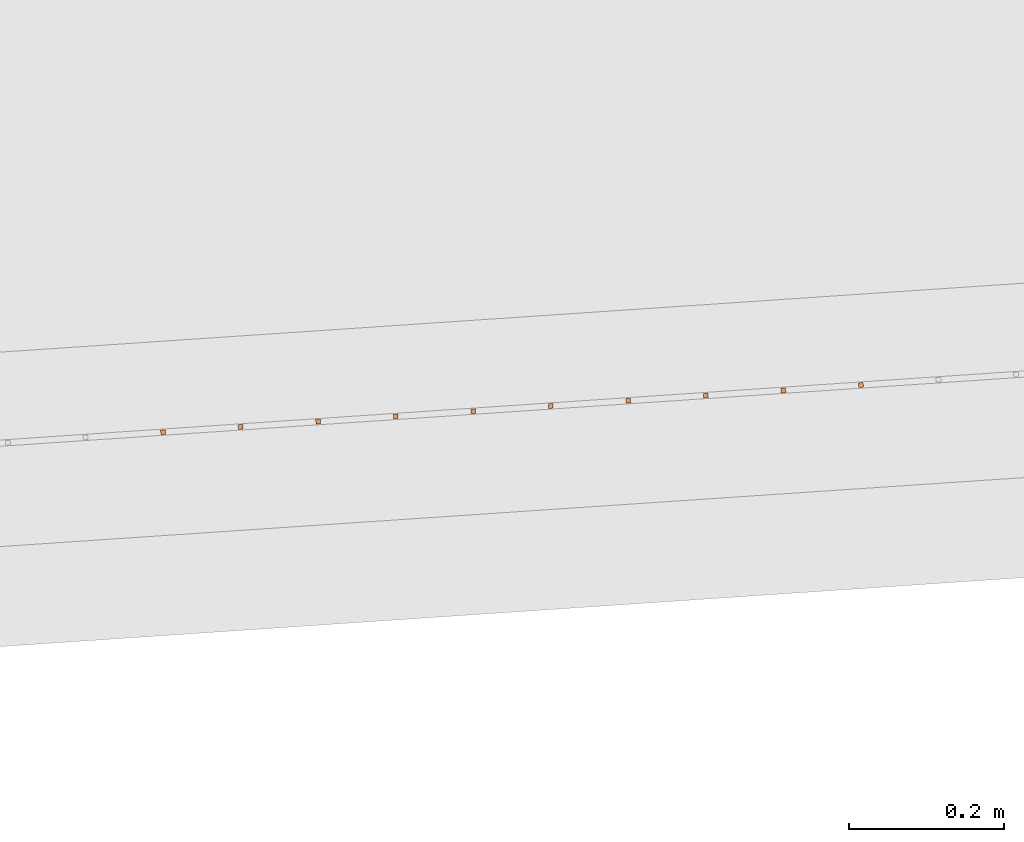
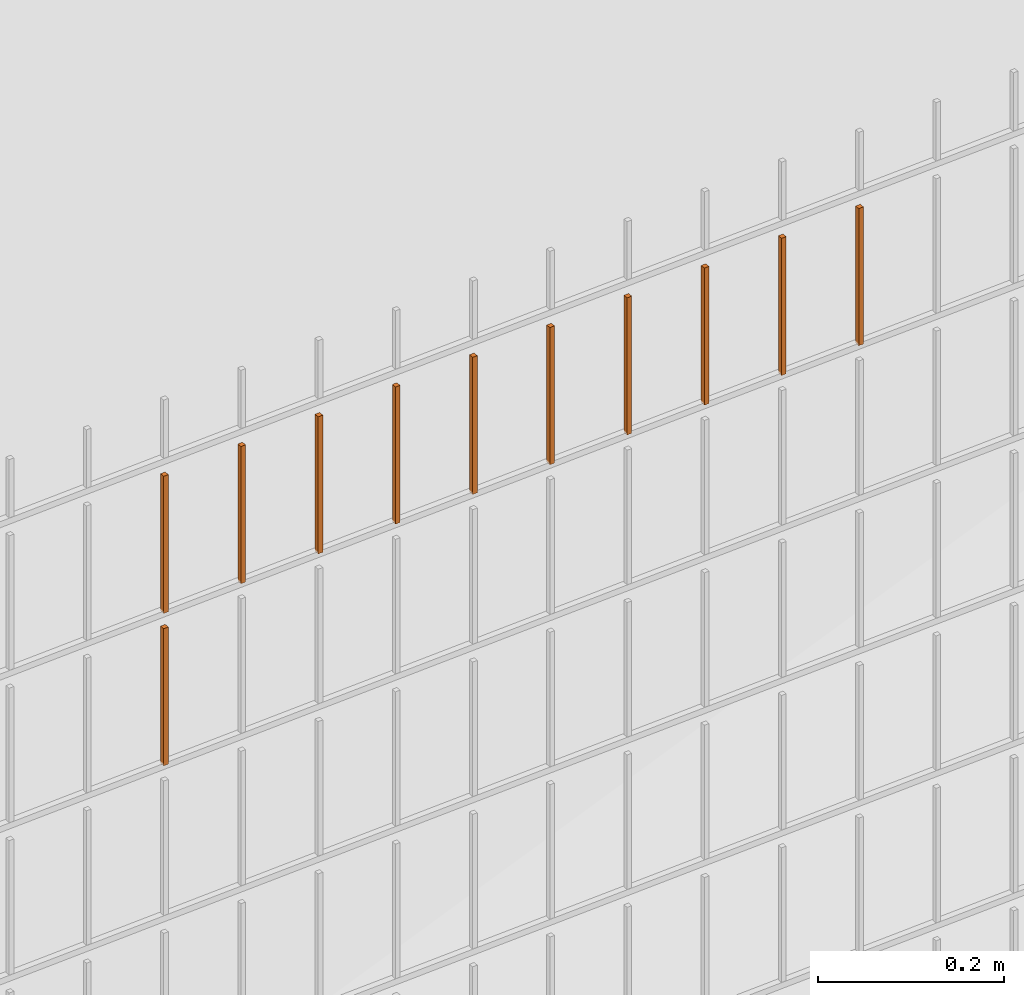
# One storey, part 79 of 1809: 11 proxies, 1 element without a shape of its own.
"""IFC2X3 building model written with IfcOpenShell, lengths in millimetres."""

from ifc_helpers import new_model, entity, si_unit, converted_unit, derived_unit, money_unit, direction, frame, origin_with_axes, place, context, subcontext, project, spatial, faceted_brep, source, transform, mapped, material, type_object, element, aggregate, save


model = new_model("IFC2X3")

# Units and contexts
model_context = context("Model", 3, precision=0.01, world=origin_with_axes(), true_north=direction((0.0, 1.0)))
body_context = subcontext(model_context, "Body", "Model", "MODEL_VIEW")
ifc_project = project(units=[si_unit("LENGTHUNIT", "METRE", prefix="MILLI"), si_unit("AREAUNIT", "SQUARE_METRE"), si_unit("VOLUMEUNIT", "CUBIC_METRE"), converted_unit("PLANEANGLEUNIT", "DEGREE", entity("IfcPlaneAngleMeasure", 0.0174532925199), si_unit("PLANEANGLEUNIT", "RADIAN"), dimensions=[0, 0, 0, 0, 0, 0, 0]), si_unit("SOLIDANGLEUNIT", "STERADIAN"), money_unit("EUR"), converted_unit("TIMEUNIT", "Year", entity("IfcTimeMeasure", 31556926.0), si_unit("TIMEUNIT", "SECOND"), dimensions=[0, 0, 1, 0, 0, 0, 0]), si_unit("MASSUNIT", "GRAM", prefix="KILO"), si_unit("THERMODYNAMICTEMPERATUREUNIT", "DEGREE_CELSIUS"), si_unit("LUMINOUSINTENSITYUNIT", "LUMEN"), si_unit("ENERGYUNIT", "JOULE", prefix="MEGA"), derived_unit("THERMALCONDUCTANCEUNIT", [(si_unit("POWERUNIT", "WATT"), 1), (si_unit("LENGTHUNIT", "METRE"), -1), (si_unit("THERMODYNAMICTEMPERATUREUNIT", "KELVIN"), -1)]), derived_unit("SPECIFICHEATCAPACITYUNIT", [(si_unit("ENERGYUNIT", "JOULE"), 1), (si_unit("MASSUNIT", "GRAM", prefix="KILO"), -1), (si_unit("THERMODYNAMICTEMPERATUREUNIT", "KELVIN"), -1)]), derived_unit("MASSDENSITYUNIT", [(si_unit("MASSUNIT", "GRAM", prefix="KILO"), 1), (si_unit("VOLUMEUNIT", "CUBIC_METRE"), -1)])], contexts=[model_context])

# Site, building, storey
site_placement = place(None, origin_with_axes())
site = spatial("IfcSite", under=ifc_project, at=site_placement, Name="Politse- ja Piirivalveameti ning Päästeameti ühishoone", CompositionType="ELEMENT")
building_placement = place(site_placement, origin_with_axes())
building = spatial("IfcBuilding", under=site, at=building_placement, Name="Politse- ja Piirivalveameti ning Päästeameti ühishoone", CompositionType="ELEMENT")
storey_placement = place(building_placement, origin_with_axes())
storey = spatial("IfcBuildingStorey", under=building, at=storey_placement, Name="Esimene korrus", CompositionType="ELEMENT", Elevation=0.0)

# Proxies
building_element_proxy_type_1 = type_object("IfcBuildingElementProxyType", Name="Railing Type", PredefinedType="NOTDEFINED")
proxy_1_placement = place(storey_placement, frame((89252.001212, -29183.4766571, 203.661247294), z_axis=(0.0, 0.0, 1.0), x_axis=(1.0, 0.0, 0.0)))
proxy_1 = element("IfcBuildingElementProxy", 1, at=proxy_1_placement, inside=storey, type_object=building_element_proxy_type_1, Name="PIIRDEAED")
ifc_material = material(Name="ET-03_Raud")
building_element_proxy_type_2 = type_object("IfcBuildingElementProxyType", Name="IfcBuildingElementProxy", PredefinedType="NOTDEFINED")
shared_shape_1 = source(origin_with_axes(), body_context, "Body", "Brep", [
    faceted_brep([(3.0, 3.0, -0.000752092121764), (-3.0, 3.0, -0.000752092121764), (-3.0, 3.0, 179.99926046), (3.0, 3.0, 179.99926046), (3.0, -3.0, 0.000752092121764), (-3.0, -3.0, 0.000752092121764), (-3.0, -3.0, 180.000764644), (3.0, -3.0, 180.000764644)], [[[0, 1, 2, 3]], [[0, 4, 5, 1]], [[1, 5, 6, 2]], [[3, 2, 6, 7]], [[4, 0, 3, 7]], [[5, 4, 7, 6]]]),
])
proxy_2_placement = place(proxy_1_placement, frame((-103291.323174, -24274.7138346, 1801.28051671), z_axis=(0.0, 0.0, 1.0), x_axis=(1.0, 0.0, 0.0)))
proxy_2 = element("IfcBuildingElementProxy", 2, at=proxy_2_placement, type_object=building_element_proxy_type_2, material=ifc_material, Name="BALUSTER - 001", context=body_context, shape_type="MappedRepresentation", body=[
    mapped(shared_shape_1, transform((0.0, 0.0, 0.0), x_axis=(-0.0673926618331, 0.997726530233, 0.0), y_axis=(-0.997726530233, -0.0673926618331, 0.0), z_axis=(0.0, 0.0, 1.0))),
])
proxy_3_placement = place(proxy_1_placement, frame((-103391.095827, -24281.4531008, 1801.25544697), z_axis=(0.0, 0.0, 1.0), x_axis=(1.0, 0.0, 0.0)))
proxy_3 = element("IfcBuildingElementProxy", 3, at=proxy_3_placement, type_object=building_element_proxy_type_2, material=ifc_material, Name="BALUSTER - 001", context=body_context, shape_type="MappedRepresentation", body=[
    mapped(shared_shape_1, transform((0.0, 0.0, 0.0), x_axis=(-0.0673926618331, 0.997726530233, 0.0), y_axis=(-0.997726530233, -0.0673926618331, 0.0), z_axis=(0.0, 0.0, 1.0))),
])
proxy_4_placement = place(proxy_1_placement, frame((-103889.959092, -24315.1494317, 1801.13009828), z_axis=(0.0, 0.0, 1.0), x_axis=(1.0, 0.0, 0.0)))
proxy_4 = element("IfcBuildingElementProxy", 4, at=proxy_4_placement, type_object=building_element_proxy_type_2, material=ifc_material, Name="BALUSTER - 001", context=body_context, shape_type="MappedRepresentation", body=[
    mapped(shared_shape_1, transform((0.0, 0.0, 0.0), x_axis=(-0.0673926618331, 0.997726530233, 0.0), y_axis=(-0.997726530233, -0.0673926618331, 0.0), z_axis=(0.0, 0.0, 1.0))),
])
proxy_5_placement = place(proxy_1_placement, frame((-103989.731745, -24321.8886979, 1801.10502854), z_axis=(0.0, 0.0, 1.0), x_axis=(1.0, 0.0, 0.0)))
proxy_5 = element("IfcBuildingElementProxy", 5, at=proxy_5_placement, type_object=building_element_proxy_type_2, material=ifc_material, Name="BALUSTER - 001", context=body_context, shape_type="MappedRepresentation", body=[
    mapped(shared_shape_1, transform((0.0, 0.0, 0.0), x_axis=(-0.0673926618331, 0.997726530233, 0.0), y_axis=(-0.997726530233, -0.0673926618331, 0.0), z_axis=(0.0, 0.0, 1.0))),
])
shared_shape_2 = source(origin_with_axes(), body_context, "Body", "Brep", [
    faceted_brep([(3.0, 3.0, -0.000752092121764), (-3.0, 3.0, -0.000752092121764), (-3.0, 3.0, 179.99926046), (3.0, 3.0, 179.99926046), (3.0, -3.0, 0.000752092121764), (-3.0, -3.0, 0.000752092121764), (-3.0, -3.0, 180.000764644), (3.0, -3.0, 180.000764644)], [[[0, 1, 2, 3]], [[0, 4, 5, 1]], [[1, 5, 6, 2]], [[3, 2, 6, 7]], [[4, 0, 3, 7]], [[5, 4, 7, 6]]]),
])
proxy_6_placement = place(proxy_1_placement, frame((-103790.186439, -24308.4101656, 1801.15516802), z_axis=(0.0, 0.0, 1.0), x_axis=(1.0, 0.0, 0.0)))
proxy_6 = element("IfcBuildingElementProxy", 6, at=proxy_6_placement, type_object=building_element_proxy_type_2, material=ifc_material, Name="BALUSTER - 001", context=body_context, shape_type="MappedRepresentation", body=[
    mapped(shared_shape_2, transform((0.0, 0.0, 0.0), x_axis=(-0.0673926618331, 0.997726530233, 0.0), y_axis=(-0.997726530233, -0.0673926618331, 0.0), z_axis=(0.0, 0.0, 1.0))),
])
shared_shape_3 = source(origin_with_axes(), body_context, "Body", "Brep", [
    faceted_brep([(3.0, 3.0, -0.000752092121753), (-3.0, 3.0, -0.000752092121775), (-3.0, 3.0, 179.99926046), (3.0, 3.0, 179.99926046), (3.0, -3.0, 0.000752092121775), (-3.0, -3.0, 0.000752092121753), (-3.0, -3.0, 180.000764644), (3.0, -3.0, 180.000764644)], [[[0, 1, 2, 3]], [[0, 4, 5, 1]], [[1, 5, 6, 2]], [[3, 2, 6, 7]], [[4, 0, 3, 7]], [[5, 4, 7, 6]]]),
])
proxy_7_placement = place(proxy_1_placement, frame((-103690.413786, -24301.6708994, 1801.18023776), z_axis=(0.0, 0.0, 1.0), x_axis=(1.0, 0.0, 0.0)))
proxy_7 = element("IfcBuildingElementProxy", 7, at=proxy_7_placement, type_object=building_element_proxy_type_2, material=ifc_material, Name="BALUSTER - 001", context=body_context, shape_type="MappedRepresentation", body=[
    mapped(shared_shape_3, transform((0.0, 0.0, 0.0), x_axis=(-0.0673926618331, 0.997726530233, 0.0), y_axis=(-0.997726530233, -0.0673926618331, 0.0), z_axis=(0.0, 0.0, 1.0))),
])
shared_shape_4 = source(origin_with_axes(), body_context, "Body", "Brep", [
    faceted_brep([(3.0, 3.0, -0.000752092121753), (-3.0, 3.0, -0.000752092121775), (-3.0, 3.0, 179.99926046), (3.0, 3.0, 179.99926046), (3.0, -3.0, 0.000752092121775), (-3.0, -3.0, 0.000752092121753), (-3.0, -3.0, 180.000764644), (3.0, -3.0, 180.000764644)], [[[0, 1, 2, 3]], [[0, 4, 5, 1]], [[1, 5, 6, 2]], [[3, 2, 6, 7]], [[4, 0, 3, 7]], [[5, 4, 7, 6]]]),
])
proxy_8_placement = place(proxy_1_placement, frame((-103191.550521, -24267.9745685, 1801.30558644), z_axis=(0.0, 0.0, 1.0), x_axis=(1.0, 0.0, 0.0)))
proxy_8 = element("IfcBuildingElementProxy", 8, at=proxy_8_placement, type_object=building_element_proxy_type_2, material=ifc_material, Name="BALUSTER - 001", context=body_context, shape_type="MappedRepresentation", body=[
    mapped(shared_shape_4, transform((0.0, 0.0, 0.0), x_axis=(-0.0673926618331, 0.997726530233, 0.0), y_axis=(-0.997726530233, -0.0673926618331, 0.0), z_axis=(0.0, 0.0, 1.0))),
])
proxy_9_placement = place(proxy_1_placement, frame((-103490.86848, -24288.192367, 1801.23037723), z_axis=(0.0, 0.0, 1.0), x_axis=(1.0, 0.0, 0.0)))
proxy_9 = element("IfcBuildingElementProxy", 9, at=proxy_9_placement, type_object=building_element_proxy_type_2, material=ifc_material, Name="BALUSTER - 001", context=body_context, shape_type="MappedRepresentation", body=[
    mapped(shared_shape_4, transform((0.0, 0.0, 0.0), x_axis=(-0.0673926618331, 0.997726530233, 0.0), y_axis=(-0.997726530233, -0.0673926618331, 0.0), z_axis=(0.0, 0.0, 1.0))),
])
shared_shape_5 = source(origin_with_axes(), body_context, "Body", "Brep", [
    faceted_brep([(3.0, 3.0, -0.000752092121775), (-3.0, 3.0, -0.000752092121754), (-3.0, 3.0, 179.99926046), (3.0, 3.0, 179.99926046), (3.0, -3.0, 0.000752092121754), (-3.0, -3.0, 0.000752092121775), (-3.0, -3.0, 180.000764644), (3.0, -3.0, 180.000764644)], [[[0, 1, 2, 3]], [[0, 4, 5, 1]], [[1, 5, 6, 2]], [[3, 2, 6, 7]], [[4, 0, 3, 7]], [[5, 4, 7, 6]]]),
])
proxy_10_placement = place(proxy_1_placement, frame((-104089.504398, -24328.6279641, 1601.07995881), z_axis=(0.0, 0.0, 1.0), x_axis=(1.0, 0.0, 0.0)))
proxy_10 = element("IfcBuildingElementProxy", 10, at=proxy_10_placement, type_object=building_element_proxy_type_2, material=ifc_material, Name="BALUSTER - 001", context=body_context, shape_type="MappedRepresentation", body=[
    mapped(shared_shape_5, transform((0.0, 0.0, 0.0), x_axis=(-0.0673926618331, 0.997726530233, 0.0), y_axis=(-0.997726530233, -0.0673926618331, 0.0), z_axis=(0.0, 0.0, 1.0))),
])
shared_shape_6 = source(origin_with_axes(), body_context, "Body", "Brep", [
    faceted_brep([(3.0, 3.0, -0.000752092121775), (-3.0, 3.0, -0.000752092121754), (-3.0, 3.0, 179.99926046), (3.0, 3.0, 179.99926046), (3.0, -3.0, 0.000752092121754), (-3.0, -3.0, 0.000752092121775), (-3.0, -3.0, 180.000764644), (3.0, -3.0, 180.000764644)], [[[0, 1, 2, 3]], [[0, 4, 5, 1]], [[1, 5, 6, 2]], [[3, 2, 6, 7]], [[4, 0, 3, 7]], [[5, 4, 7, 6]]]),
])
proxy_11_placement = place(proxy_1_placement, frame((-104089.504398, -24328.6279641, 1801.07995881), z_axis=(0.0, 0.0, 1.0), x_axis=(1.0, 0.0, 0.0)))
proxy_11 = element("IfcBuildingElementProxy", 11, at=proxy_11_placement, type_object=building_element_proxy_type_2, material=ifc_material, Name="BALUSTER - 001", context=body_context, shape_type="MappedRepresentation", body=[
    mapped(shared_shape_6, transform((0.0, 0.0, 0.0), x_axis=(-0.0673926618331, 0.997726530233, 0.0), y_axis=(-0.997726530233, -0.0673926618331, 0.0), z_axis=(0.0, 0.0, 1.0))),
])
shared_shape_7 = source(origin_with_axes(), body_context, "Body", "Brep", [
    faceted_brep([(3.0, 3.0, -0.000752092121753), (-3.0, 3.0, -0.000752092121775), (-3.0, 3.0, 179.99926046), (3.0, 3.0, 179.99926046), (3.0, -3.0, 0.000752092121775), (-3.0, -3.0, 0.000752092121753), (-3.0, -3.0, 180.000764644), (3.0, -3.0, 180.000764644)], [[[0, 1, 2, 3]], [[0, 4, 5, 1]], [[1, 5, 6, 2]], [[3, 2, 6, 7]], [[4, 0, 3, 7]], [[5, 4, 7, 6]]]),
])
proxy_12_placement = place(proxy_1_placement, frame((-103590.641133, -24294.9316332, 1801.20530749), z_axis=(0.0, 0.0, 1.0), x_axis=(1.0, 0.0, 0.0)))
proxy_12 = element("IfcBuildingElementProxy", 12, at=proxy_12_placement, type_object=building_element_proxy_type_2, material=ifc_material, Name="BALUSTER - 001", context=body_context, shape_type="MappedRepresentation", body=[
    mapped(shared_shape_7, transform((0.0, 0.0, 0.0), x_axis=(-0.0673926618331, 0.997726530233, 0.0), y_axis=(-0.997726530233, -0.0673926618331, 0.0), z_axis=(0.0, 0.0, 1.0))),
])
aggregate(proxy_1, [proxy_10, proxy_8, proxy_2, proxy_3, proxy_9, proxy_12, proxy_7, proxy_6, proxy_4, proxy_5, proxy_11])

save(model, "model.ifc")
